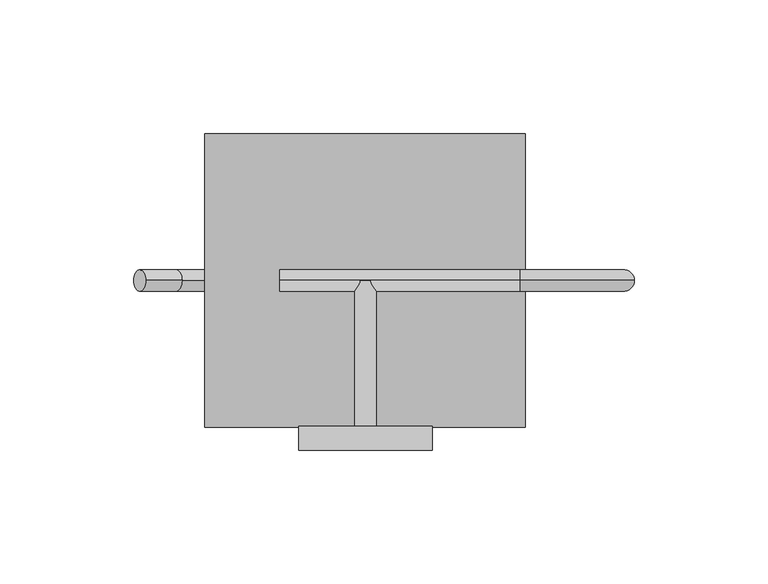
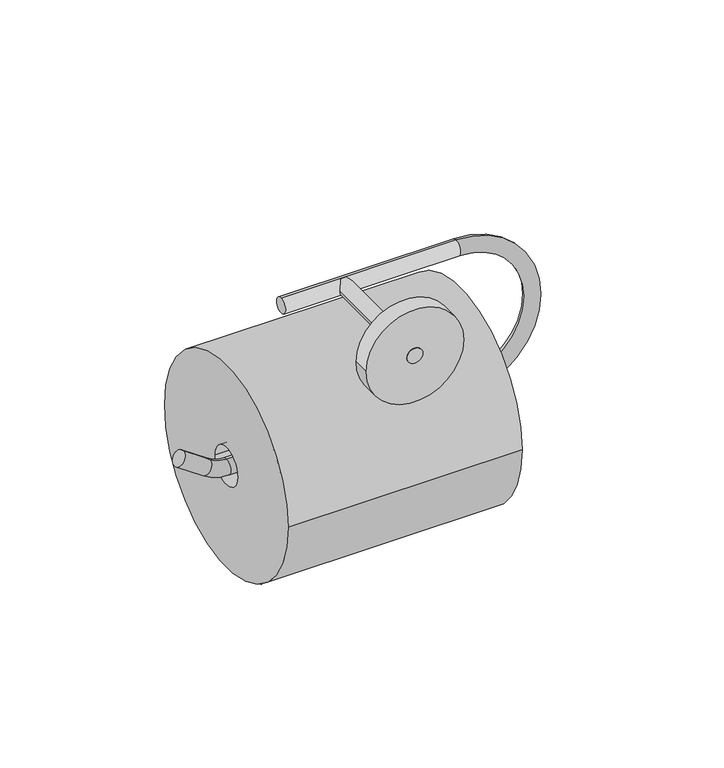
"""IFC4 building model written with IfcOpenShell, lengths in millimetres: flow terminal geometry, Portarrollo Dica 1017 : Portarrollos Dica 1017."""

from ifc_helpers import new_model, si_unit, point, frame, frame_2d, origin, place, context, project, spatial, circle_curve, ellipse_curve, trimmed, segment, composite_curve, outline, extrude, source, transform, mapped, element, save
from ifc_brep_helpers import plane_surface, cylinder_surface, revolved_surface, advanced_brep


def flow_terminal_7a7e6053(model_context):
    return source(origin(), model_context, "Body", "SolidModel", [
        extrude(outline(composite_curve([segment(trimmed(circle_curve(frame_2d((138.5, -77.2787162)), 55.0), [point((193.5, -77.2787162))], [point((83.5, -77.2787162))], False, "CARTESIAN"), True, "CONTINUOUS"), segment(trimmed(circle_curve(frame_2d((138.5, -77.2787162)), 55.0), [point((83.5, -77.2787162))], [point((193.5, -77.2787162))], False, "CARTESIAN"), True, "CONTINUOUS")], self_intersect=False), holes=[composite_curve([segment(trimmed(circle_curve(frame_2d((138.5, -77.2787162)), 10.0), [point((148.5, -77.2787162))], [point((128.5, -77.2787162))], True, "CARTESIAN"), True, "CONTINUOUS"), segment(trimmed(circle_curve(frame_2d((138.5, -77.2787162)), 10.0), [point((128.5, -77.2787162))], [point((148.5, -77.2787162))], True, "CARTESIAN"), True, "CONTINUOUS")], self_intersect=False)]), frame((64.9375, 0.0, 0.0), z_axis=(1.0, 0.0, 0.0), x_axis=(0.0, 1.0, 0.0)), (0.0, 0.0, 1.0), 120.0),
        extrude(outline(composite_curve([segment(trimmed(circle_curve(frame_2d((0.0, 125.0)), 4.0), [point((0.0, 121.0))], [point((0.0, 129.0))], False, "CARTESIAN"), True, "CONTINUOUS"), segment(trimmed(circle_curve(frame_2d((0.0, 125.0)), 4.0), [point((0.0, 129.0))], [point((0.0, 121.0))], False, "CARTESIAN"), True, "CONTINUOUS")], self_intersect=False)), frame((0.0, 75.0, 0.0), z_axis=(0.0, 1.0, 0.0), x_axis=(0.0, 0.0, 1.0)), (0.0, 0.0, 1.0), 63.3830496),
        extrude(outline(composite_curve([segment(trimmed(circle_curve(frame_2d((0.0, 125.0)), 25.0), [point((0.0, 100.0))], [point((0.0, 150.0))], False, "CARTESIAN"), True, "CONTINUOUS"), segment(trimmed(circle_curve(frame_2d((0.0, 125.0)), 25.0), [point((0.0, 150.0))], [point((0.0, 100.0))], False, "CARTESIAN"), True, "CONTINUOUS")], self_intersect=False)), frame((0.0, 75.0, 0.0), z_axis=(0.0, 1.0, 0.0), x_axis=(0.0, 0.0, 1.0)), (0.0, 0.0, 1.0), 8.9918697),
        advanced_brep(
        [(38.2124764, 138.5, -67.8712806), (42.8010879, 138.5, -61.3180642), (51.7841808, 138.5, -77.3742904), (56.3727923, 138.5, -70.821074), (64.8692601, 138.5, -73.5), (64.8692601, 138.5, -81.5), (182.9954104, 138.5, -81.5), (182.9954104, 138.5, -73.5), (182.9954104, 138.5, -4.0), (182.9954104, 138.5, 4.0), (92.9954104, 138.5, 4.0), (92.9954104, 138.5, -4.0)],
        [
            (0, 1, circle_curve(frame((40.5067821, 138.5, -64.5946724), z_axis=(-0.8191520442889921, 0.0, 0.5735764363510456), x_axis=(0.5735764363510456, 0.0, 0.8191520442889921)), 4.0)),
            (1, 0, circle_curve(frame((40.5067821, 138.5, -64.5946724), z_axis=(-0.8191520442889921, 0.0, 0.5735764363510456), x_axis=(0.5735764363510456, 0.0, 0.8191520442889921)), 4.0)),
            (0, 2),
            (2, 3, circle_curve(frame((54.0784866, 138.5, -74.0976822), z_axis=(-0.8191520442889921, 0.0, 0.5735764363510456), x_axis=(0.5735764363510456, 0.0, 0.8191520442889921)), 4.0)),
            (3, 1),
            (3, 2, circle_curve(frame((54.0784866, 138.5, -74.0976822), z_axis=(-0.8191520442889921, 0.0, 0.5735764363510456), x_axis=(0.5735764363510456, 0.0, 0.8191520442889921)), 4.0)),
            (4, 3, circle_curve(frame((64.8692601, 138.5, -58.6868605), z_axis=(0.0, 1.0, 0.0), x_axis=(-0.5735764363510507, 0.0, -0.8191520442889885)), 14.8131395)),
            (2, 5, circle_curve(frame((64.8692601, 138.5, -58.6868605), z_axis=(0.0, -1.0, 0.0), x_axis=(-0.5735764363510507, 0.0, -0.8191520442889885)), 22.8131395)),
            (5, 4, circle_curve(frame((64.8692601, 138.5, -77.5), z_axis=(-0.9999999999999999, 0.0, 0.0), x_axis=(0.0, 0.0, 0.9999999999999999)), 4.0)),
            (4, 5, circle_curve(frame((64.8692601, 138.5, -77.5), z_axis=(-0.9999999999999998, 0.0, 0.0), x_axis=(0.0, 0.0, 0.9999999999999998)), 4.0)),
            (5, 6),
            (6, 7, circle_curve(frame((182.9954104, 138.5, -77.5), z_axis=(-1.0, 0.0, 0.0), x_axis=(0.0, 0.0, 1.0)), 4.0)),
            (7, 4),
            (7, 6, circle_curve(frame((182.9954104, 138.5, -77.5), z_axis=(-1.0, 0.0, 0.0), x_axis=(0.0, 0.0, 1.0)), 4.0)),
            (8, 7, circle_curve(frame((182.9954104, 138.5, -38.75), z_axis=(0.0, 1.0, 0.0), x_axis=(0.0, 0.0, -1.0)), 34.75)),
            (6, 9, circle_curve(frame((182.9954104, 138.5, -38.75), z_axis=(0.0, -1.0, 0.0), x_axis=(0.0, 0.0, -1.0)), 42.75)),
            (9, 8, circle_curve(frame((182.9954104, 138.5, 0.0), z_axis=(1.0, 0.0, 0.0), x_axis=(0.0, 0.0, -1.0)), 4.0)),
            (8, 9, circle_curve(frame((182.9954104, 138.5, 0.0), z_axis=(1.0, 0.0, 0.0), x_axis=(0.0, 0.0, -1.0)), 4.0)),
            (10, 11, circle_curve(frame((92.9954104, 138.5, 0.0), z_axis=(-1.0, 0.0, 0.0), x_axis=(0.0, 0.0, -1.0)), 4.0)),
            (11, 10, circle_curve(frame((92.9954104, 138.5, 0.0), z_axis=(-1.0, 0.0, 0.0), x_axis=(0.0, 0.0, -1.0)), 4.0)),
            (9, 10),
            (11, 8),
        ],
        [
            plane_surface(frame((40.5067821, 75.0, -64.5946724), z_axis=(-0.8191520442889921, 0.0, 0.5735764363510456), x_axis=(0.0, -1.0, 0.0))),
            cylinder_surface(frame((40.5067821, 138.5, -64.5946724), z_axis=(-0.8191520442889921, 0.0, 0.5735764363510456), x_axis=(0.5735764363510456, 0.0, 0.8191520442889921)), 4.0),
            revolved_surface(trimmed(ellipse_curve(frame((54.0784866, 138.5, -74.0976822), z_axis=(-0.8191520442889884, 0.0, 0.5735764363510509), x_axis=(0.5735764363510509, 0.0, 0.8191520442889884)), 4.0, 4.0), [point((51.7841808, 138.5, -77.3742904))], [point((56.3727923, 138.5, -70.821074))], True, "CARTESIAN"), (64.8692601, 75.0, -58.6868605), (0.0, -1.0, 0.0)),
            revolved_surface(trimmed(ellipse_curve(frame((54.0784866, 138.5, -74.0976822), z_axis=(-0.8191520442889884, 0.0, 0.5735764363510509), x_axis=(0.5735764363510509, 0.0, 0.8191520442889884)), 4.0, 4.0), [point((56.3727923, 138.5, -70.821074))], [point((51.7841808, 138.5, -77.3742904))], True, "CARTESIAN"), (64.8692601, 75.0, -58.6868605), (0.0, -1.0, 0.0)),
            cylinder_surface(frame((64.8692601, 138.5, -77.5), z_axis=(-1.0, 0.0, 0.0), x_axis=(0.0, 0.0, 1.0)), 4.0),
            revolved_surface(trimmed(ellipse_curve(frame((182.9954104, 138.5, -77.5), z_axis=(-1.0, 0.0, 0.0), x_axis=(0.0, 0.0, 1.0)), 4.0, 4.0), [point((182.9954104, 138.5, -81.5))], [point((182.9954104, 138.5, -73.5))], True, "CARTESIAN"), (182.9954104, 75.0, -38.75), (0.0, -1.0, 0.0)),
            revolved_surface(trimmed(ellipse_curve(frame((182.9954104, 138.5, -77.5), z_axis=(-1.0, 0.0, 0.0), x_axis=(0.0, 0.0, 1.0)), 4.0, 4.0), [point((182.9954104, 138.5, -73.5))], [point((182.9954104, 138.5, -81.5))], True, "CARTESIAN"), (182.9954104, 75.0, -38.75), (0.0, -1.0, 0.0)),
            plane_surface(frame((92.9954104, 75.0, 0.0), z_axis=(-1.0, 0.0, 0.0), x_axis=(0.0, -1.0, 0.0))),
            cylinder_surface(frame((182.9954104, 138.5, 0.0), z_axis=(1.0, 0.0, 0.0), x_axis=(0.0, 0.0, -1.0)), 4.0),
        ],
        [
            (0, [[1, 2]]),
            (1, [[-1, 3, 4, 5]]),
            (1, [[-2, -5, 6, -3]]),
            (2, [[7, -4, 8, 9]]),
            (3, [[-8, -6, -7, 10]]),
            (4, [[-9, 11, 12, 13]]),
            (4, [[-10, -13, 14, -11]]),
            (5, [[15, -12, 16, 17]]),
            (6, [[-16, -14, -15, 18]]),
            (7, [[19, 20]]),
            (8, [[-17, 21, -20, 22]]),
            (8, [[-18, -22, -19, -21]]),
        ],
    ),
    ])


if __name__ == "__main__":
    model = new_model("IFC4")
    model_context = context("Model", 3, world=origin())
    ifc_project = project(units=[si_unit("LENGTHUNIT", "METRE", prefix="MILLI")], contexts=[model_context])
    site = spatial("IfcSite", under=ifc_project)
    building = spatial("IfcBuilding", under=site)
    placement = place(None, origin())
    flow_terminal_shape = flow_terminal_7a7e6053(model_context)
    element("IfcFlowTerminal", 1, ObjectType="Portarrollo Dica 1017 : Portarrollos Dica 1017", at=placement, inside=building, context=model_context, shape_type="MappedRepresentation", body=[
        mapped(flow_terminal_shape, transform((0.0, 0.0, 0.0), x_axis=(1.0, 0.0, 0.0), y_axis=(0.0, 1.0, 0.0), z_axis=(0.0, 0.0, 1.0))),
    ])
    save(model, "model.ifc")
